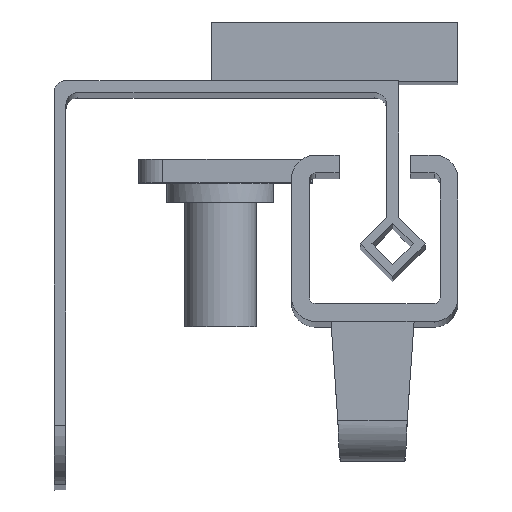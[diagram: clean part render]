
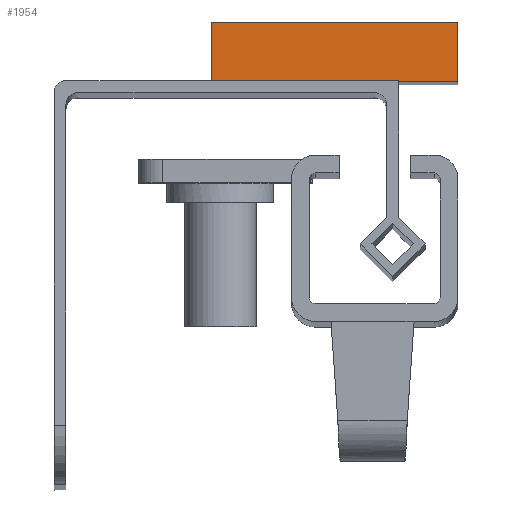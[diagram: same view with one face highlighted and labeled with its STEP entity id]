
A CAD part, top view. The second image highlights one B-rep face of the part: STEP entity #1954.
In plain terms, the highlighted planar face has unit normal (0, 0, 1).
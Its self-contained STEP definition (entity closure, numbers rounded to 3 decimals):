
#308=FACE_OUTER_BOUND('',#428,.T.);
#428=EDGE_LOOP('',(#1597,#1598,#1599,#1600,#1601));
#652=LINE('',#3130,#812);
#654=LINE('',#3134,#814);
#655=LINE('',#3136,#815);
#656=LINE('',#3138,#816);
#657=LINE('',#3139,#817);
#812=VECTOR('',#2496,10.);
#814=VECTOR('',#2500,10.);
#815=VECTOR('',#2501,10.);
#816=VECTOR('',#2502,10.);
#817=VECTOR('',#2503,10.);
#966=VERTEX_POINT('',#3127);
#967=VERTEX_POINT('',#3129);
#968=VERTEX_POINT('',#3133);
#969=VERTEX_POINT('',#3135);
#970=VERTEX_POINT('',#3137);
#1200=EDGE_CURVE('',#966,#967,#652,.T.);
#1202=EDGE_CURVE('',#966,#968,#654,.T.);
#1203=EDGE_CURVE('',#968,#969,#655,.T.);
#1204=EDGE_CURVE('',#969,#970,#656,.T.);
#1205=EDGE_CURVE('',#970,#967,#657,.T.);
#1597=ORIENTED_EDGE('',*,*,#1202,.T.);
#1598=ORIENTED_EDGE('',*,*,#1203,.T.);
#1599=ORIENTED_EDGE('',*,*,#1204,.T.);
#1600=ORIENTED_EDGE('',*,*,#1205,.T.);
#1601=ORIENTED_EDGE('',*,*,#1200,.F.);
#1875=PLANE('',#2100);
#1954=ADVANCED_FACE('',(#308),#1875,.F.);
#2100=AXIS2_PLACEMENT_3D('',#3132,#2498,#2499);
#2496=DIRECTION('',(0.,1.,0.));
#2498=DIRECTION('center_axis',(0.,0.,
-1.));
#2499=DIRECTION('ref_axis',(-1.,0.,0.));
#2500=DIRECTION('',(1.,0.,0.));
#2501=DIRECTION('',(1.,0.,0.));
#2502=DIRECTION('',(0.,1.,0.));
#2503=DIRECTION('',(-1.,0.,0.));
#3127=CARTESIAN_POINT('',(8.526,46.147,222.975));
#3129=CARTESIAN_POINT('',(8.526,51.147,222.975));
#3130=CARTESIAN_POINT('',(8.526,46.147,222.975));
#3132=CARTESIAN_POINT('Origin',(29.248,46.147,222.975));
#3133=CARTESIAN_POINT('',(24.248,46.147,222.975));
#3134=CARTESIAN_POINT('',(12.248,46.147,222.975));
#3135=CARTESIAN_POINT('',(29.248,46.147,222.975));
#3136=CARTESIAN_POINT('',(8.526,46.147,222.975));
#3137=CARTESIAN_POINT('',(29.248,51.147,222.975));
#3138=CARTESIAN_POINT('',(29.248,46.147,222.975));
#3139=CARTESIAN_POINT('',(8.526,51.147,222.975));
